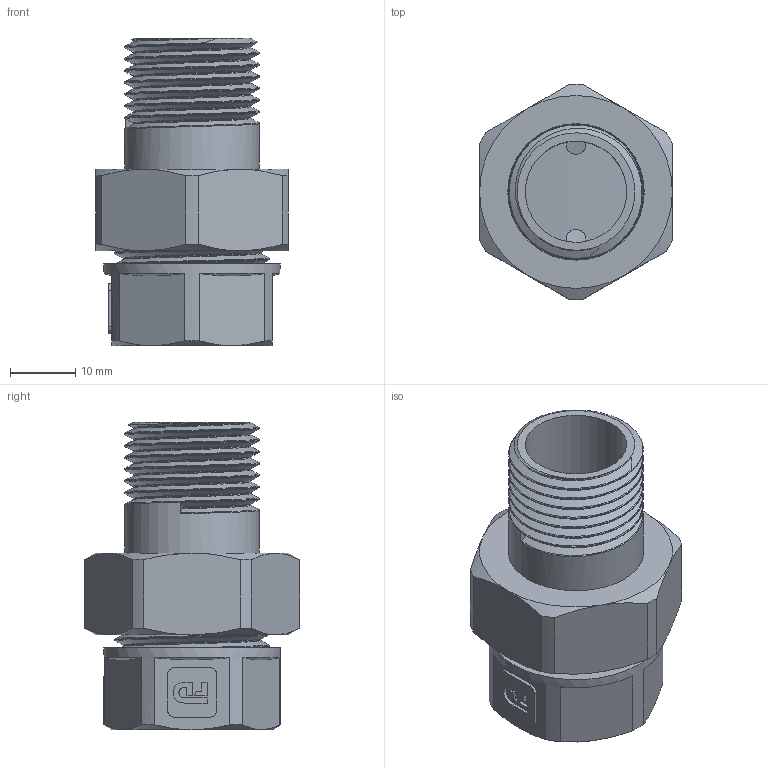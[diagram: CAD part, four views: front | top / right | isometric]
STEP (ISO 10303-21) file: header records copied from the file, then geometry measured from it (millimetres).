
FILE_DESCRIPTION(/* description */ (''),/* implementation_level */ '2;1');
FILE_NAME(/* name */ 'C:\Users\Doom\Desktop\Фадотех\Резьба\SC01 18.03.2020\SC01 18.03.2020.stp',/* time_stamp */ '2022-01-16T13:35:42+02:00',/* author */ ('Doom'),/* organization */ (''),/* preprocessor_version */ 'ST-DEVELOPER v18',/* originating_system */ 'Autodesk Inventor 2020',/* authorisation */ '');
FILE_SCHEMA (('AUTOMOTIVE_DESIGN { 1 0 10303 214 3 1 1 }'));
Length unit declared in the file: millimetre
Products named in the file (4): SC01 18.03.2020; 2060179D; 2060180D; 2060181D
Assembly tree (3 placements, depth 2):
  SC01 18.03.2020
    2060179D
    2060180D
    2060181D
Bounding box: 29.5 x 32.99 x 47 mm (x, y, z)
Volume: 12233.3 mm3; surface area: 15633.7 mm2
Topology: 5 solids, 5 shells, 167 faces, 445 edges, 296 vertices
Faces by surface type: plane 50, cylinder 50, cone 35, bspline 32
Full cylindrical faces by diameter (mm): 15.5 x1, 18 x1, 18.256 x8, 18.779 x1, 19 x1, 20.6 x7, 20.877 x1, 20.947 x2, 20.982 x2, 23.673 x5, 23.753 x5, 24 x1, 27 x1
Entity records: 18837 total; most frequent: CARTESIAN_POINT 14912, ORIENTED_EDGE 886, DIRECTION 658, EDGE_CURVE 443, VERTEX_POINT 295, AXIS2_PLACEMENT_3D 259, EDGE_LOOP 186, FACE_OUTER_BOUND 167
